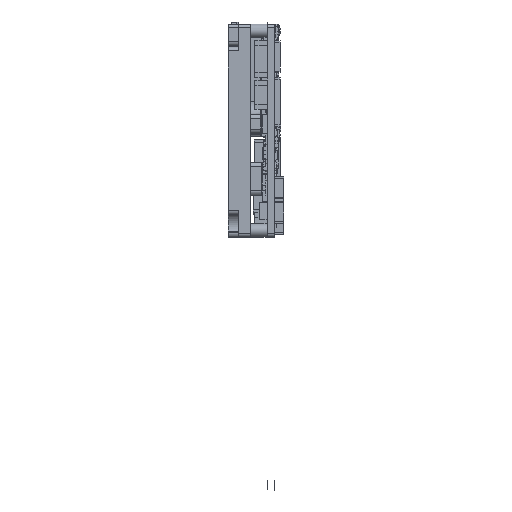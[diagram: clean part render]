
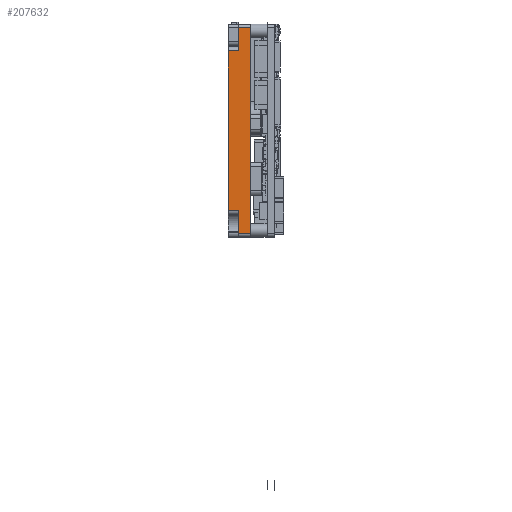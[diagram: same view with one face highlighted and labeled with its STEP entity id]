
A CAD part, left-side view. The second image highlights one B-rep face of the part: STEP entity #207632.
In plain terms, the highlighted planar face has unit normal (-1, 0, 0) as drawn and (0, 1, 0) by its records, which use the part's own axes.
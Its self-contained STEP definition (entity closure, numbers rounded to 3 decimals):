
#348 = CARTESIAN_POINT ( 'NONE',  ( 0., 23.813, 3.6 ) ) ;
#549 = CARTESIAN_POINT ( 'NONE',  ( 0., 23.813, 3.6 ) ) ;
#2430 = CARTESIAN_POINT ( 'NONE',  ( 48.323, 23.813, 63.796 ) ) ;
#9119 = CARTESIAN_POINT ( 'NONE',  ( 4.815, 23.813, 3.6 ) ) ;
#9465 = VECTOR ( 'NONE', #152922, 1000. ) ;
#9570 = VECTOR ( 'NONE', #45365, 1000. ) ;
#28324 = DIRECTION ( 'NONE',  ( 0., 0., -1. ) ) ;
#45365 = DIRECTION ( 'NONE',  ( 0., 0., -1. ) ) ;
#49461 = VERTEX_POINT ( 'NONE', #236685 ) ;
#49853 = PLANE ( 'NONE',  #218191 ) ;
#52415 = VECTOR ( 'NONE', #157086, 1000. ) ;
#59846 = VERTEX_POINT ( 'NONE', #154358 ) ;
#63314 = EDGE_CURVE ( 'NONE', #179705, #49461, #241582, .T. ) ;
#64306 = VECTOR ( 'NONE', #242661, 1000. ) ;
#64647 = LINE ( 'NONE', #348, #258934 ) ;
#66076 = LINE ( 'NONE', #148708, #9465 ) ;
#66972 = CARTESIAN_POINT ( 'NONE',  ( 0., 23.813, 63.796 ) ) ;
#68693 = CARTESIAN_POINT ( 'NONE',  ( 4.815, 23.813, 63.796 ) ) ;
#71147 = ORIENTED_EDGE ( 'NONE', *, *, #125263, .F. ) ;
#75686 = VECTOR ( 'NONE', #273866, 1000. ) ;
#82979 = CARTESIAN_POINT ( 'NONE',  ( 48.323, 23.813, 0.71 ) ) ;
#88015 = EDGE_CURVE ( 'NONE', #246806, #59846, #275282, .T. ) ;
#90042 = CARTESIAN_POINT ( 'NONE',  ( 42.81, 23.813, 63.796 ) ) ;
#102749 = CARTESIAN_POINT ( 'NONE',  ( 42.81, 23.813, 6. ) ) ;
#111157 = DIRECTION ( 'NONE',  ( 0., -1., 0. ) ) ;
#112399 = EDGE_LOOP ( 'NONE', ( #234358, #184257, #274310, #227379, #230599, #71147, #270768, #228088 ) ) ;
#113948 = VERTEX_POINT ( 'NONE', #256134 ) ;
#114367 = DIRECTION ( 'NONE',  ( -1., 0., 0. ) ) ;
#125263 = EDGE_CURVE ( 'NONE', #113948, #59846, #214326, .T. ) ;
#134303 = VERTEX_POINT ( 'NONE', #9119 ) ;
#138098 = EDGE_CURVE ( 'NONE', #179705, #246806, #150758, .T. ) ;
#145793 = EDGE_CURVE ( 'NONE', #173051, #238084, #66076, .T. ) ;
#148708 = CARTESIAN_POINT ( 'NONE',  ( 0., 23.813, 6. ) ) ;
#150758 = LINE ( 'NONE', #2430, #9570 ) ;
#152922 = DIRECTION ( 'NONE',  ( -1., 0., 0. ) ) ;
#153884 = CARTESIAN_POINT ( 'NONE',  ( 4.815, 23.813, 6. ) ) ;
#154358 = CARTESIAN_POINT ( 'NONE',  ( -0.699, 23.813, 0.71 ) ) ;
#157086 = DIRECTION ( 'NONE',  ( 0., 0., -1. ) ) ;
#158096 = FACE_OUTER_BOUND ( 'NONE', #112399, .T. ) ;
#173051 = VERTEX_POINT ( 'NONE', #102749 ) ;
#179705 = VERTEX_POINT ( 'NONE', #186243 ) ;
#179764 = LINE ( 'NONE', #90042, #52415 ) ;
#181994 = EDGE_CURVE ( 'NONE', #134303, #238084, #198367, .T. ) ;
#184257 = ORIENTED_EDGE ( 'NONE', *, *, #198826, .T. ) ;
#186243 = CARTESIAN_POINT ( 'NONE',  ( 48.323, 23.813, 3.6 ) ) ;
#197306 = DIRECTION ( 'NONE',  ( -1., 0., 0. ) ) ;
#198367 = LINE ( 'NONE', #68693, #64306 ) ;
#198826 = EDGE_CURVE ( 'NONE', #173051, #49461, #179764, .T. ) ;
#203694 = VECTOR ( 'NONE', #281199, 1000. ) ;
#207632 = ADVANCED_FACE ( 'NONE', ( #158096 ), #49853, .F. ) ;
#214326 = LINE ( 'NONE', #259834, #203694 ) ;
#218191 = AXIS2_PLACEMENT_3D ( 'NONE', #66972, #111157, #28324 ) ;
#223815 = EDGE_CURVE ( 'NONE', #134303, #113948, #64647, .T. ) ;
#227379 = ORIENTED_EDGE ( 'NONE', *, *, #138098, .T. ) ;
#228088 = ORIENTED_EDGE ( 'NONE', *, *, #181994, .T. ) ;
#230599 = ORIENTED_EDGE ( 'NONE', *, *, #88015, .T. ) ;
#234358 = ORIENTED_EDGE ( 'NONE', *, *, #145793, .F. ) ;
#236685 = CARTESIAN_POINT ( 'NONE',  ( 42.81, 23.813, 3.6 ) ) ;
#238084 = VERTEX_POINT ( 'NONE', #153884 ) ;
#241582 = LINE ( 'NONE', #549, #262997 ) ;
#242661 = DIRECTION ( 'NONE',  ( 0., 0., 1. ) ) ;
#246806 = VERTEX_POINT ( 'NONE', #82979 ) ;
#256134 = CARTESIAN_POINT ( 'NONE',  ( -0.699, 23.813, 3.6 ) ) ;
#258934 = VECTOR ( 'NONE', #114367, 1000. ) ;
#259834 = CARTESIAN_POINT ( 'NONE',  ( -0.699, 23.813, 63.796 ) ) ;
#262997 = VECTOR ( 'NONE', #197306, 1000. ) ;
#270768 = ORIENTED_EDGE ( 'NONE', *, *, #223815, .F. ) ;
#273866 = DIRECTION ( 'NONE',  ( -1., 0., 0. ) ) ;
#274310 = ORIENTED_EDGE ( 'NONE', *, *, #63314, .F. ) ;
#275282 = LINE ( 'NONE', #278089, #75686 ) ;
#278089 = CARTESIAN_POINT ( 'NONE',  ( 0., 23.813, 0.71 ) ) ;
#281199 = DIRECTION ( 'NONE',  ( 0., 0., -1. ) ) ;
